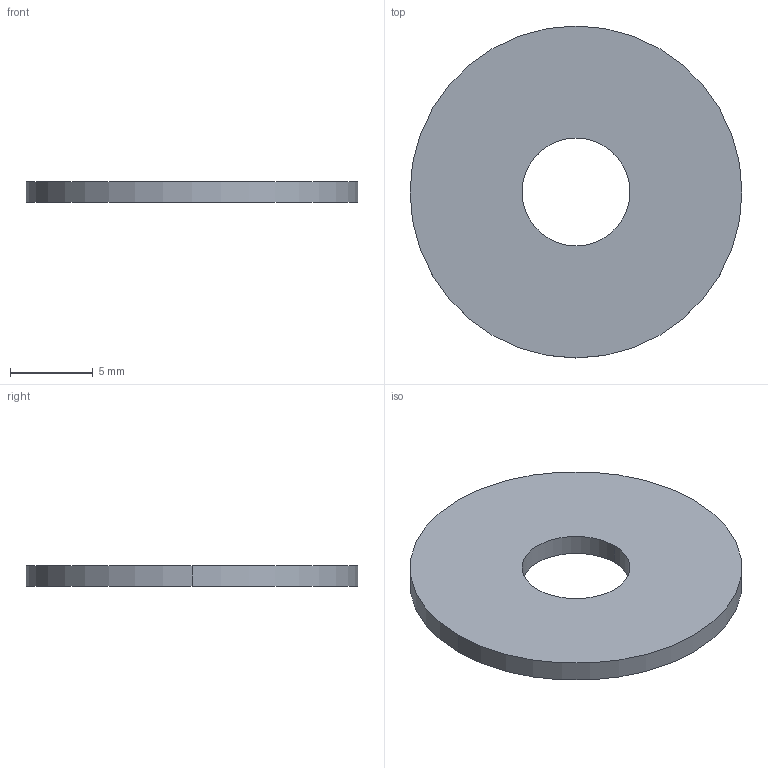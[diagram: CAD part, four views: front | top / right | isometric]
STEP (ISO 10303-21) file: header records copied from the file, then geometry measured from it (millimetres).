
FILE_DESCRIPTION (( 'STEP AP214' ), '1' );
FILE_NAME ('N600053_0_Karosseriescheibe.STEP', '2018-07-04T05:30:12', ( '' ), ( '' ), 'SwSTEP 2.0', 'SolidWorks 2017', '' );
FILE_SCHEMA (( 'AUTOMOTIVE_DESIGN' ));
Length unit declared in the file: millimetre
Products named in the file (1): N600053_0_Karosseriescheibe
Bounding box: 20 x 20 x 1.25 mm (x, y, z)
Volume: 351.2 mm3; surface area: 666 mm2
Topology: 1 solids, 1 shells, 6 faces, 12 edges, 8 vertices
Faces by surface type: cylinder 4, plane 2
Entity records: 268 total; most frequent: DIRECTION 34, CARTESIAN_POINT 27, ORIENTED_EDGE 24, AXIS2_PLACEMENT_3D 15, EDGE_CURVE 12, UNCERTAINTY_MEASURE_WITH_UNIT 9, CIRCLE 8, SURFACE_STYLE_USAGE 8
